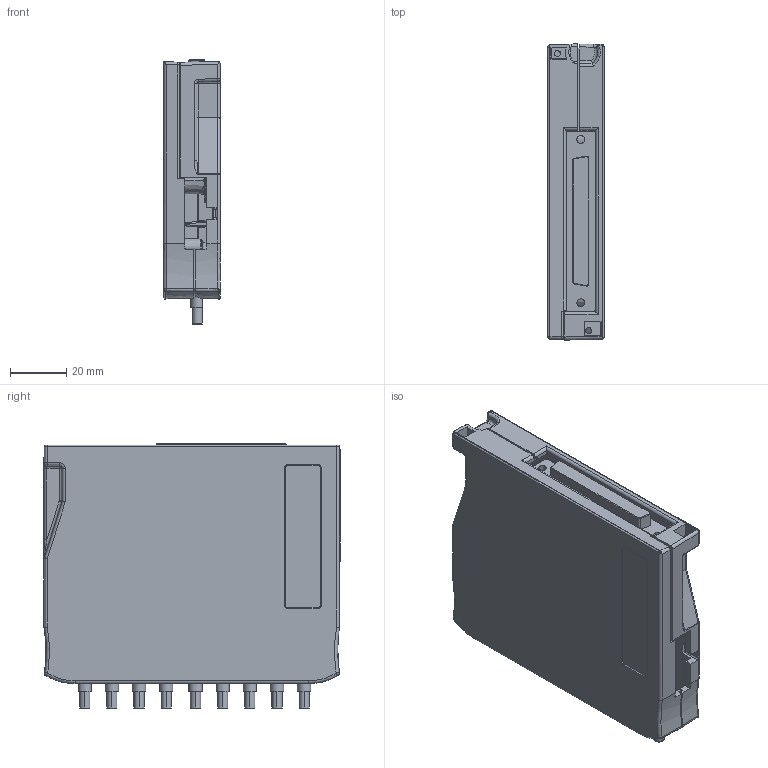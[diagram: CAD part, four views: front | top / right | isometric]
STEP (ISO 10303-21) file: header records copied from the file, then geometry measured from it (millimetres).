
FILE_DESCRIPTION((''),'2;1');
FILE_NAME('CD_TB-2709','2008-01-15T',('scarrasc'),(''),'PRO/ENGINEER BY PARAMETRIC TECHNOLOGY CORPORATION, 2006080','PRO/ENGINEER BY PARAMETRIC TECHNOLOGY CORPORATION, 2006080','');
FILE_SCHEMA(('CONFIG_CONTROL_DESIGN'));
Products named in the file (1): CD_TB-2709
Bounding box: 20.02 x 104.95 x 93.61 mm (x, y, z)
Volume: 72535.7 mm3; surface area: 71446.9 mm2
Topology: 1 solids, 1 shells, 2838 faces, 6962 edges, 4204 vertices
Faces by surface type: cylinder 951, plane 929, bspline 528, torus 170, sphere 130, cone 129, extrusion 1
Entity records: 111414 total; most frequent: CARTESIAN_POINT 47467, ORIENTED_EDGE 13920, DIRECTION 12679, EDGE_CURVE 6960, AXIS2_PLACEMENT_3D 4888, VERTEX_POINT 4204, EDGE_LOOP 3116, VECTOR 2903
